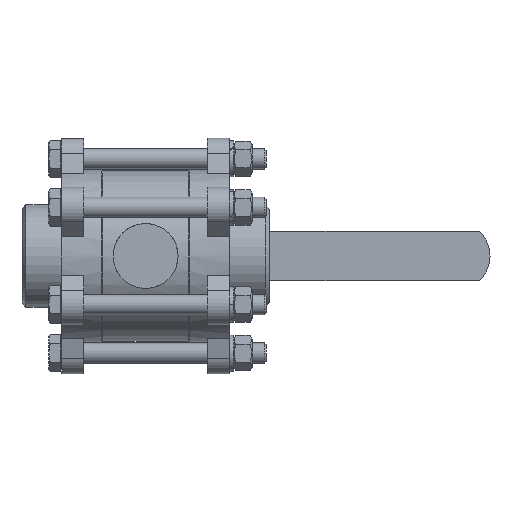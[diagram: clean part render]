
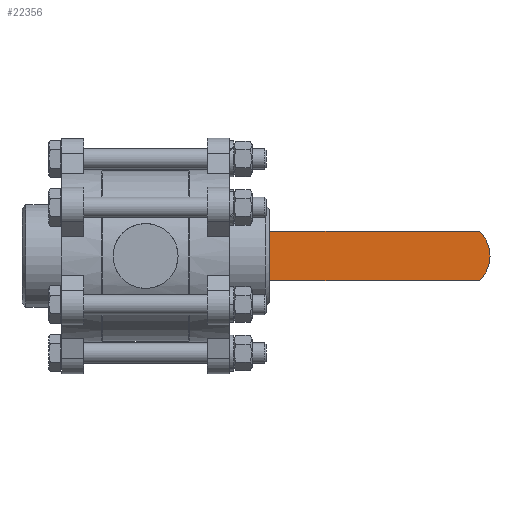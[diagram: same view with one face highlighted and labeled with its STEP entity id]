
A CAD part, front view. The second image highlights one B-rep face of the part: STEP entity #22356.
In plain terms, the highlighted planar face has unit normal (0, -1, 0).
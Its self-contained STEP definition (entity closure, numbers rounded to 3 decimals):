
#1140=PLANE('',#23741);
#3093=FACE_OUTER_BOUND('',#4318,.T.);
#4318=EDGE_LOOP('',(#16242,#16243,#16244,#16245));
#5657=CIRCLE('',#23739,20.);
#6644=LINE('',#31969,#8469);
#6646=LINE('',#31973,#8471);
#6647=LINE('',#31974,#8472);
#8469=VECTOR('',#26235,10.);
#8471=VECTOR('',#26239,10.);
#8472=VECTOR('',#26240,10.);
#10355=VERTEX_POINT('',#31962);
#10356=VERTEX_POINT('',#31963);
#10357=VERTEX_POINT('',#31968);
#10358=VERTEX_POINT('',#31972);
#12630=EDGE_CURVE('',#10355,#10356,#5657,.T.);
#12633=EDGE_CURVE('',#10357,#10355,#6644,.T.);
#12635=EDGE_CURVE('',#10358,#10356,#6646,.T.);
#12636=EDGE_CURVE('',#10357,#10358,#6647,.T.);
#16242=ORIENTED_EDGE('',*,*,#12630,.T.);
#16243=ORIENTED_EDGE('',*,*,#12635,.F.);
#16244=ORIENTED_EDGE('',*,*,#12636,.F.);
#16245=ORIENTED_EDGE('',*,*,#12633,.T.);
#22356=ADVANCED_FACE('',(#3093),#1140,.T.);
#23739=AXIS2_PLACEMENT_3D('',#31964,#26229,#26230);
#23741=AXIS2_PLACEMENT_3D('',#31971,#26237,#26238);
#26229=DIRECTION('center_axis',(0.,-1.,0.));
#26230=DIRECTION('ref_axis',(0.689,0.,0.725));
#26235=DIRECTION('',(1.,0.,0.));
#26237=DIRECTION('center_axis',(0.,-1.,0.));
#26238=DIRECTION('ref_axis',(0.,0.,
-1.));
#26239=DIRECTION('',(1.,0.,0.));
#26240=DIRECTION('',(0.,0.,1.));
#31962=CARTESIAN_POINT('',(147.707,418.127,-46.721));
#31963=CARTESIAN_POINT('',(147.707,418.127,-17.721));
#31964=CARTESIAN_POINT('Origin',(133.932,418.127,-32.221));
#31968=CARTESIAN_POINT('',(18.932,418.127,-46.721));
#31969=CARTESIAN_POINT('',(18.932,418.127,-46.721));
#31971=CARTESIAN_POINT('Origin',(18.932,418.127,-17.721));
#31972=CARTESIAN_POINT('',(18.932,418.127,-17.721));
#31973=CARTESIAN_POINT('',(18.932,418.127,-17.721));
#31974=CARTESIAN_POINT('',(18.932,418.127,-46.721));
